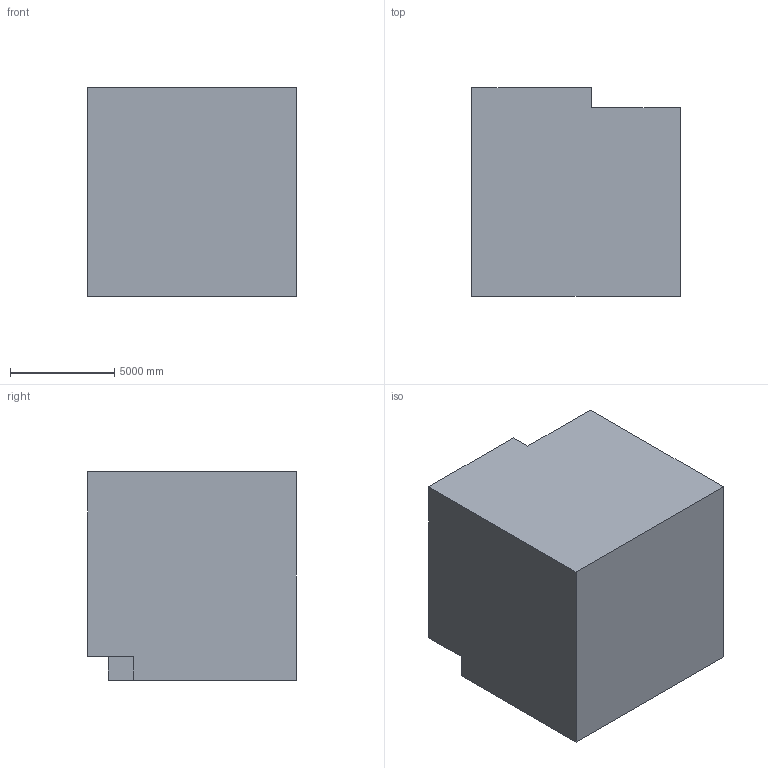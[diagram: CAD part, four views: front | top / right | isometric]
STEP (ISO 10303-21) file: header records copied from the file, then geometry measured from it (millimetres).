
FILE_DESCRIPTION (( 'STEP AP203' ), '1' );
FILE_NAME ('121.STEP', '2022-09-05T15:36:26', ( 'user' ), ( '' ), 'SwSTEP 2.0', 'SolidWorks 2021', '' );
FILE_SCHEMA (( 'CONFIG_CONTROL_DESIGN' ));
Length unit declared in the file: centimetre
Products named in the file (1): 121
Bounding box: 10000 x 10000 x 10000 mm (x, y, z)
Volume: 925345970616.9 mm3; surface area: 589513964.4 mm2
Topology: 1 solids, 1 shells, 14 faces, 36 edges, 24 vertices
Faces by surface type: plane 14
Entity records: 497 total; most frequent: CARTESIAN_POINT 75, ORIENTED_EDGE 72, DIRECTION 66, LINE 36, EDGE_CURVE 36, VECTOR 36, VERTEX_POINT 24, AXIS2_PLACEMENT_3D 15
